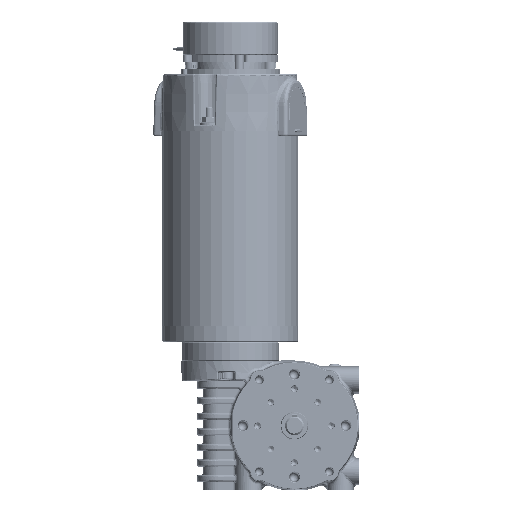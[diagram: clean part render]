
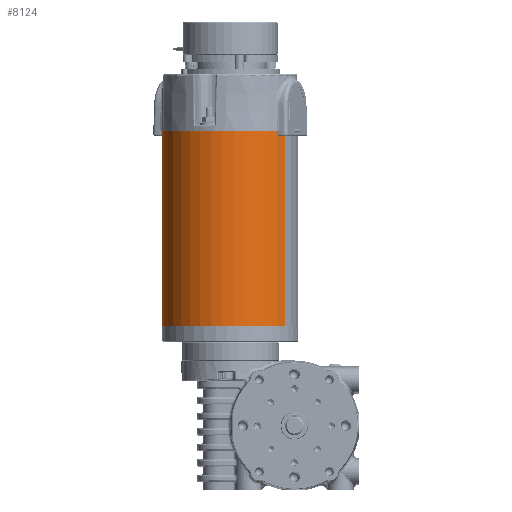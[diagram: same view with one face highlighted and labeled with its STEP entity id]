
A CAD part, left-side view. The second image highlights one B-rep face of the part: STEP entity #8124.
In plain terms, the highlighted cylindrical face has radius 37.15 mm (diameter 74.3 mm), a partial arc.
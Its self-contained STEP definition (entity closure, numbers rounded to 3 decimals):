
#7540 = EDGE_CURVE ( 'NONE', #173505, #164848, #17987, .T. ) ;
#8124 = ADVANCED_FACE ( 'NONE', ( #242023 ), #178893, .T. ) ;
#12013 = DIRECTION ( 'NONE',  ( 0., 0., 1. ) ) ;
#15352 = ORIENTED_EDGE ( 'NONE', *, *, #7540, .T. ) ;
#17987 = CIRCLE ( 'NONE', #232970, 37.15 ) ;
#19120 = DIRECTION ( 'NONE',  ( 0., 0., 1. ) ) ;
#22259 = CARTESIAN_POINT ( 'NONE',  ( 27.455, 44.51, 50.358 ) ) ;
#23795 = AXIS2_PLACEMENT_3D ( 'NONE', #56959, #34944, #203145 ) ;
#34944 = DIRECTION ( 'NONE',  ( 0., 0., -1. ) ) ;
#41144 = LINE ( 'NONE', #122616, #235452 ) ;
#43830 = EDGE_CURVE ( 'NONE', #229237, #164848, #81185, .T. ) ;
#52611 = EDGE_LOOP ( 'NONE', ( #232838, #193912, #135276, #15352 ) ) ;
#56959 = CARTESIAN_POINT ( 'NONE',  ( 5.264, 14.716, 50.358 ) ) ;
#75734 = DIRECTION ( 'NONE',  ( 0., 0., 1. ) ) ;
#81185 = LINE ( 'NONE', #144800, #171560 ) ;
#95779 = EDGE_CURVE ( 'NONE', #202626, #173505, #41144, .T. ) ;
#95981 = DIRECTION ( 'NONE',  ( -0.597, -0.802, 0. ) ) ;
#102403 = DIRECTION ( 'NONE',  ( 0.597, 0.802, 0. ) ) ;
#119730 = EDGE_CURVE ( 'NONE', #202626, #229237, #248083, .T. ) ;
#122616 = CARTESIAN_POINT ( 'NONE',  ( -16.926, -15.079, 50.358 ) ) ;
#135276 = ORIENTED_EDGE ( 'NONE', *, *, #95779, .T. ) ;
#143949 = CARTESIAN_POINT ( 'NONE',  ( 5.264, 14.716, 156.358 ) ) ;
#144800 = CARTESIAN_POINT ( 'NONE',  ( 27.455, 44.51, 50.358 ) ) ;
#156482 = CARTESIAN_POINT ( 'NONE',  ( 27.455, 44.51, 156.358 ) ) ;
#164848 = VERTEX_POINT ( 'NONE', #156482 ) ;
#171560 = VECTOR ( 'NONE', #75734, 1000. ) ;
#173505 = VERTEX_POINT ( 'NONE', #197464 ) ;
#178893 = CYLINDRICAL_SURFACE ( 'NONE', #272213, 37.15 ) ;
#193912 = ORIENTED_EDGE ( 'NONE', *, *, #119730, .F. ) ;
#197464 = CARTESIAN_POINT ( 'NONE',  ( -16.926, -15.079, 156.358 ) ) ;
#200865 = CARTESIAN_POINT ( 'NONE',  ( 5.264, 14.716, 50.358 ) ) ;
#202626 = VERTEX_POINT ( 'NONE', #261499 ) ;
#203145 = DIRECTION ( 'NONE',  ( 0.597, 0.802, 0. ) ) ;
#207226 = DIRECTION ( 'NONE',  ( 0., 0., -1. ) ) ;
#229237 = VERTEX_POINT ( 'NONE', #22259 ) ;
#232838 = ORIENTED_EDGE ( 'NONE', *, *, #43830, .F. ) ;
#232970 = AXIS2_PLACEMENT_3D ( 'NONE', #143949, #207226, #102403 ) ;
#235452 = VECTOR ( 'NONE', #19120, 1000. ) ;
#242023 = FACE_OUTER_BOUND ( 'NONE', #52611, .T. ) ;
#248083 = CIRCLE ( 'NONE', #23795, 37.15 ) ;
#261499 = CARTESIAN_POINT ( 'NONE',  ( -16.926, -15.079, 50.358 ) ) ;
#272213 = AXIS2_PLACEMENT_3D ( 'NONE', #200865, #12013, #95981 ) ;
